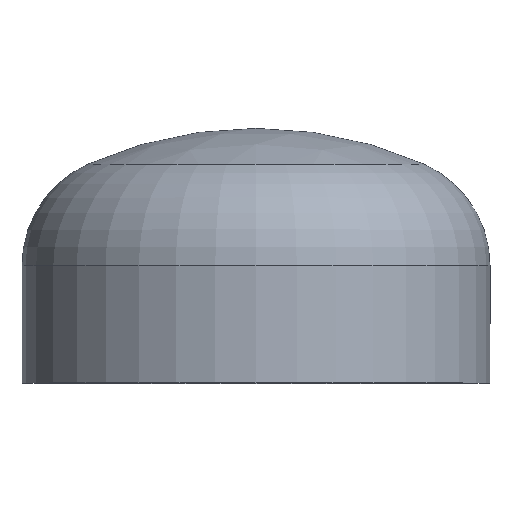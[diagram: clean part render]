
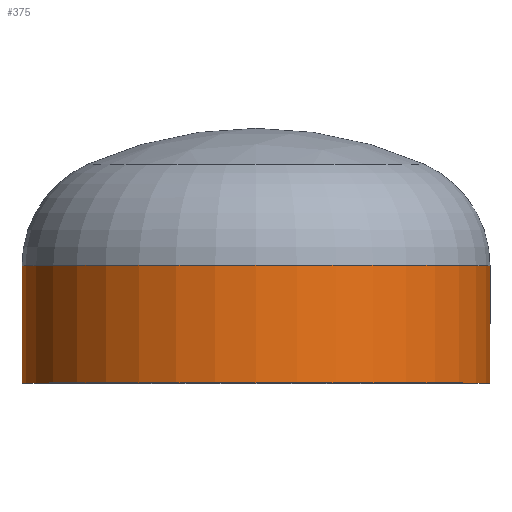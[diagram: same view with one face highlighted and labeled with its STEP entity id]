
A CAD part, top view. The second image highlights one B-rep face of the part: STEP entity #375.
In plain terms, the highlighted cylindrical face has radius 109.55 mm (diameter 219.1 mm), a partial arc.
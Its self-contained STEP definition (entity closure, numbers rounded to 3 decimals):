
#2 = ORIENTED_EDGE ( 'NONE', *, *, #129, .T. ) ;
#6 = CARTESIAN_POINT ( 'NONE',  ( 0., 0., 0. ) ) ;
#11 = ORIENTED_EDGE ( 'NONE', *, *, #353, .F. ) ;
#28 = CARTESIAN_POINT ( 'NONE',  ( 109.55, 55., 0. ) ) ;
#32 = VERTEX_POINT ( 'NONE', #301 ) ;
#40 = CARTESIAN_POINT ( 'NONE',  ( -109.55, 0., 0. ) ) ;
#58 = ORIENTED_EDGE ( 'NONE', *, *, #358, .F. ) ;
#69 = VERTEX_POINT ( 'NONE', #28 ) ;
#74 = DIRECTION ( 'NONE',  ( 1., 0., 0. ) ) ;
#86 = AXIS2_PLACEMENT_3D ( 'NONE', #6, #224, #74 ) ;
#93 = VERTEX_POINT ( 'NONE', #261 ) ;
#100 = AXIS2_PLACEMENT_3D ( 'NONE', #296, #161, #324 ) ;
#126 = ORIENTED_EDGE ( 'NONE', *, *, #385, .T. ) ;
#129 = EDGE_CURVE ( 'NONE', #69, #32, #199, .T. ) ;
#143 = VERTEX_POINT ( 'NONE', #216 ) ;
#148 = EDGE_LOOP ( 'NONE', ( #2, #126, #58, #11 ) ) ;
#161 = DIRECTION ( 'NONE',  ( 0., -1., 0. ) ) ;
#194 = CYLINDRICAL_SURFACE ( 'NONE', #86, 109.55 ) ;
#199 = CIRCLE ( 'NONE', #100, 109.55 ) ;
#202 = DIRECTION ( 'NONE',  ( 0., -1., 0. ) ) ;
#204 = DIRECTION ( 'NONE',  ( 0., -1., 0. ) ) ;
#209 = FACE_OUTER_BOUND ( 'NONE', #148, .T. ) ;
#216 = CARTESIAN_POINT ( 'NONE',  ( 109.55, 0., 0. ) ) ;
#224 = DIRECTION ( 'NONE',  ( 0., -1., 0. ) ) ;
#238 = DIRECTION ( 'NONE',  ( 0., -1., 0. ) ) ;
#254 = LINE ( 'NONE', #40, #372 ) ;
#261 = CARTESIAN_POINT ( 'NONE',  ( -109.55, 0., 0. ) ) ;
#264 = VECTOR ( 'NONE', #238, 1000. ) ;
#292 = CARTESIAN_POINT ( 'NONE',  ( 0., 0., 0. ) ) ;
#296 = CARTESIAN_POINT ( 'NONE',  ( 0., 55., 0. ) ) ;
#301 = CARTESIAN_POINT ( 'NONE',  ( -109.55, 55., 0. ) ) ;
#308 = CARTESIAN_POINT ( 'NONE',  ( 109.55, 0., 0. ) ) ;
#322 = LINE ( 'NONE', #308, #264 ) ;
#324 = DIRECTION ( 'NONE',  ( 1., 0., 0. ) ) ;
#353 = EDGE_CURVE ( 'NONE', #69, #143, #322, .T. ) ;
#358 = EDGE_CURVE ( 'NONE', #143, #93, #393, .T. ) ;
#366 = DIRECTION ( 'NONE',  ( 1., 0., 0. ) ) ;
#372 = VECTOR ( 'NONE', #202, 1000. ) ;
#375 = ADVANCED_FACE ( 'NONE', ( #209 ), #194, .T. ) ;
#379 = AXIS2_PLACEMENT_3D ( 'NONE', #292, #204, #366 ) ;
#385 = EDGE_CURVE ( 'NONE', #32, #93, #254, .T. ) ;
#393 = CIRCLE ( 'NONE', #379, 109.55 ) ;
